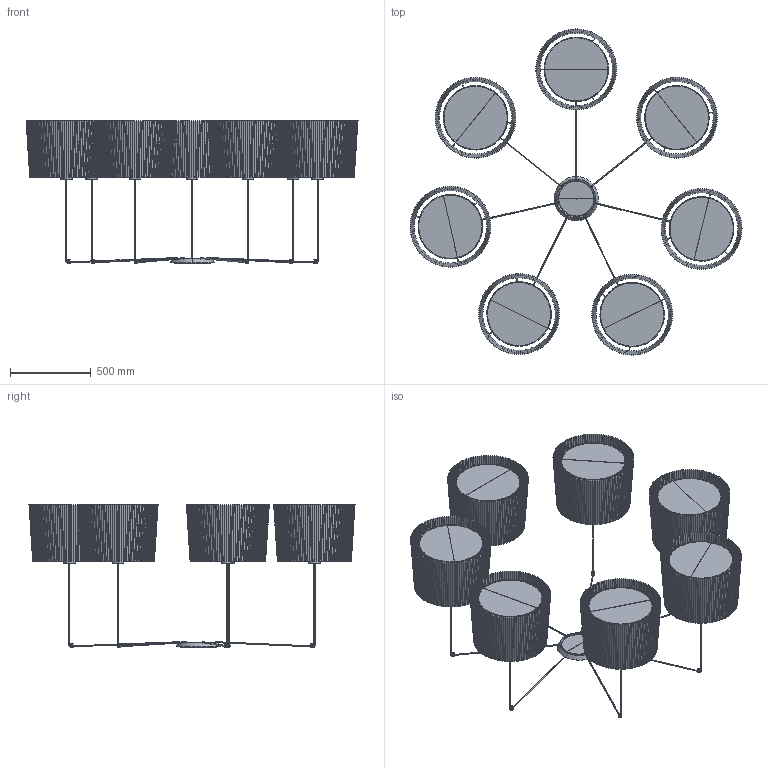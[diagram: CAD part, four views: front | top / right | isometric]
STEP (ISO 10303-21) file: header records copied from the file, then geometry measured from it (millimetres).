
FILE_DESCRIPTION(/* description */ (''),/* implementation_level */ '2;1');
FILE_NAME(/* name */ 'C:\Users\Franco Sartori E\Documents\FARO\DUPLICADO\Modelos\01_Digitalizados\2021\0_MAMBO_SAMBA_CONGA\03_Publicación\64314-46-7L.stp',/* time_stamp */ '2021-02-16T09:13:53+01:00',/* author */ ('Franco Sartori E'),/* organization */ (''),/* preprocessor_version */ 'ST-DEVELOPER v18.1',/* originating_system */ 'AutoCAD Mechanical',/* authorisation */ '');
FILE_SCHEMA (('AUTOMOTIVE_DESIGN { 1 0 10303 214 3 1 1 }'));
Products named in the file (3): Product; CANOPY_7 - 68603-383073-_3D_; SAMBA_FMA - LH-383472-_3D_
Assembly tree (8 placements, depth 2):
  Product
    CANOPY_7 - 68603-383073-_3D_
    SAMBA_FMA - LH-383472-_3D_  x7
Bounding box: 2058.63 x 2021.77 x 882.69 mm (x, y, z)
Volume: 12230214.8 mm3; surface area: 12249568.9 mm2
Topology: 1024 solids, 1059 shells, 8766 faces, 19669 edges, 12868 vertices
Faces by surface type: plane 7833, cylinder 625, torus 228, cone 80
Entity records: 75377 total; most frequent: CARTESIAN_POINT 26938, ORIENTED_EDGE 9807, DIRECTION 9509, EDGE_CURVE 4955, LINE 3389, VECTOR 3389, VERTEX_POINT 3124, AXIS2_PLACEMENT_3D 3060
